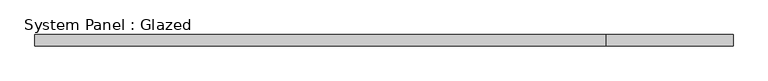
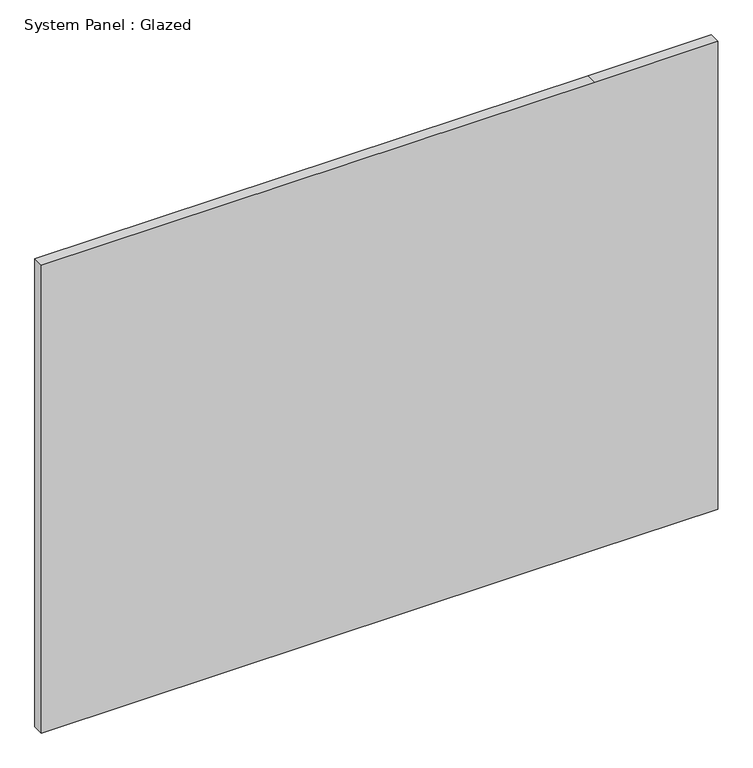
"""IFC4 building model written with IfcOpenShell, lengths in millimetres: plate geometry, System Panel : Glazed."""

from ifc_helpers import new_model, si_unit, frame, origin, place, context, project, spatial, polyline, outline, extrude, source, transform, mapped, element, save


def system_panel_glazed_290e85bf(model_context):
    return source(origin(), model_context, "Body", "SweptSolid", [
        extrude(outline(polyline([(0.0, -768.35), (0.0, 488.95), (0.0, 768.35), (1123.95, 768.35), (1123.95, 488.95), (1123.95, -768.35), (0.0, -768.35)])), frame((0.0, -44.45, 0.0), z_axis=(0.0, 1.0, 0.0), x_axis=(0.0, 0.0, 1.0)), (0.0, 0.0, 1.0), 25.4),
    ])


if __name__ == "__main__":
    model = new_model("IFC4")
    model_context = context("Model", 3, world=origin())
    ifc_project = project(units=[si_unit("LENGTHUNIT", "METRE", prefix="MILLI")], contexts=[model_context])
    site = spatial("IfcSite", under=ifc_project)
    building = spatial("IfcBuilding", under=site)
    placement = place(None, origin())
    system_panel_glazed_shape = system_panel_glazed_290e85bf(model_context)
    element("IfcPlate", 1, ObjectType="System Panel : Glazed", at=placement, inside=building, context=model_context, shape_type="MappedRepresentation", body=[
        mapped(system_panel_glazed_shape, transform((0.0, 0.0, 0.0), x_axis=(1.0, 0.0, 0.0), y_axis=(0.0, 1.0, 0.0), z_axis=(0.0, 0.0, 1.0))),
    ])
    save(model, "model.ifc")
